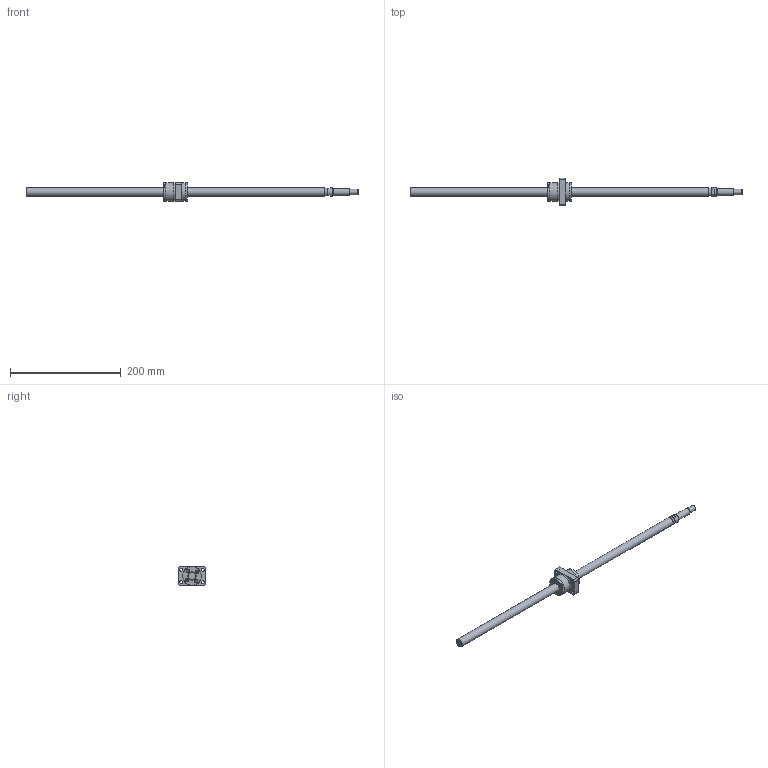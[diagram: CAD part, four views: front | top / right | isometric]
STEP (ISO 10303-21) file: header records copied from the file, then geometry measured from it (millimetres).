
FILE_DESCRIPTION(/* description */ ('STEP AP214'),/* implementation_level */ '2;1');
FILE_NAME(/* name */ 'SG1510-540R600C5A0X(248.5)',/* time_stamp */ '2026-07-24T21:03:05+02:00',/* author */ ('License CC BY-ND 4.0'),/* organization */ ('CADENAS'),/* preprocessor_version */ 'ST-DEVELOPER v20',/* originating_system */ 'PARTsolutions',/* authorisation */ ' ');
FILE_SCHEMA (('AUTOMOTIVE_DESIGN {1 0 10303 214 3 1 1}'));
Length unit declared in the file: millimetre
Products named in the file (3): SG1510-540R600C5A0X(248.5); SG1510-540R600C5A_shaft; SG1510 C5_nut
Assembly tree (2 placements, depth 2):
  SG1510-540R600C5A0X(248.5)
    SG1510-540R600C5A_shaft
    SG1510 C5_nut
Bounding box: 600 x 50 x 34 mm (x, y, z)
Volume: 139732 mm3; surface area: 39563 mm2
Topology: 2 solids, 2 shells, 114 faces, 257 edges, 166 vertices
Faces by surface type: plane 73, cylinder 33, cone 7, torus 1
Full cylindrical faces by diameter (mm): 2 x1, 4.917 x1, 5.5 x8, 9.5 x4, 10 x1, 12 x1, 14.387 x1, 15 x3, 33.5 x3, 34 x2
Entity records: 3094 total; most frequent: DIRECTION 540, CARTESIAN_POINT 511, ORIENTED_EDGE 442, EDGE_CURVE 221, AXIS2_PLACEMENT_3D 203, EDGE_LOOP 178, FACE_BOUND 178, VERTEX_POINT 163
